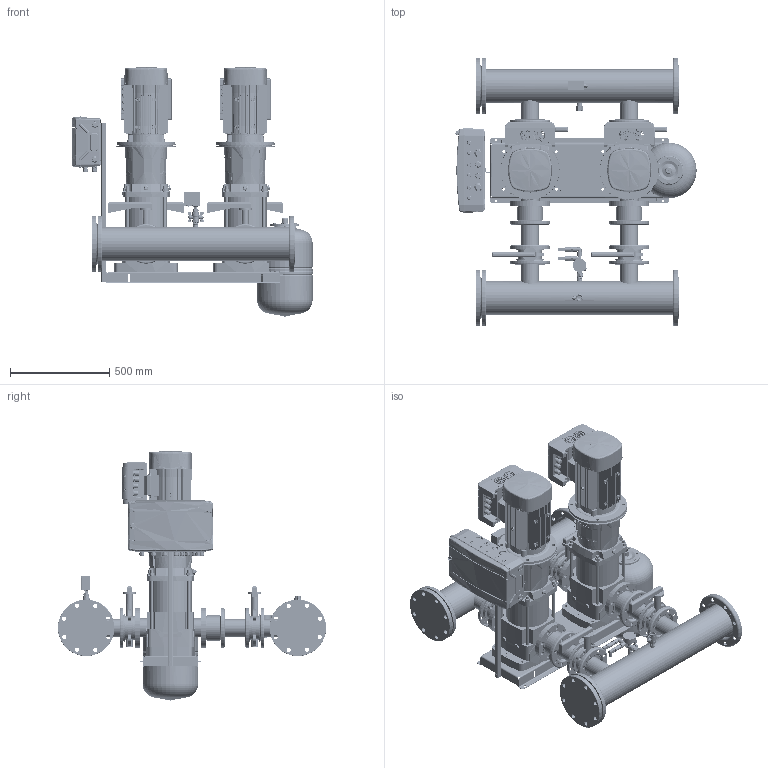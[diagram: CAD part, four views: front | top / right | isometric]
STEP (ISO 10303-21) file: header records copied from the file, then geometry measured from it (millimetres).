
FILE_DESCRIPTION(('CATIA V5 STEP Exchange','CAx-IF Rec.Pracs.--- Model Styling and Organization---1.4--- 2014-01-23','CAx-IF Rec.Pracs.---3D Tessellated Data Validation Properties---0.5---2014-09-14'),'2;1');
FILE_NAME('C:\Users\78432\YandexDisk\Drawings and 3D\3D Hydro Booster\Hydro-ME 3D\Hydro Models\Hydro ME 2 CRV45-xx\Hydro ME 2 CRVE45-2-2.stp','2023-09-20T13:44:56+00:00',('none'),('none'),'CATIA Version 5-6 Release 2019 SP6','CATIA V5 STEP AP242 v1','none');
FILE_SCHEMA(('AP242_MANAGED_MODEL_BASED_3D_ENGINEERING_MIM_LF {1 0 10303 442 1 1 4}'));
Length unit declared in the file: millimetre
Products named in the file (52): Hydro ME 2 CRVE45-2-2; 92051010; CRV45-2-2 set; CRV 45-2-2_DIN_5.5kW; Base; Flange.1; Flange.2; Sleeve; Pumphead; Staybolt.1; Staybolt.2; Staybolt.3; Staybolt.4; AirVent; Motor; Plug; Non-Return Valve DN80 cpl.; 92802787; 00id2588; Buttefly Valve DN80 cpl.; 92802780; 96619630#01_GMR; 91070073; 91071907; 99110037; SAJ PDH30 4-7,5kW; 97941448; 405801; 91041071; 91070076; 99110040; 97941485; 00ID6961; Holder and CP 18mod; 92878909; Control ME (18mod); 2 sensors + manometer cpl.; manometr 16 bar; RPD-I-G1_2; 9021-01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
Assembly tree (69 placements, depth 4):
  Hydro ME 2 CRVE45-2-2
    92051010
    CRV45-2-2 set  x2
      CRV 45-2-2_DIN_5.5kW
        Base
        Flange.1
        Flange.2
        Sleeve
        Pumphead
        Staybolt.1
        Staybolt.2
        Staybolt.3
        Staybolt.4
        AirVent
        Motor
        Plug
      Non-Return Valve DN80 cpl.
        92802787
        00id2588  x2
      Buttefly Valve DN80 cpl.
        92802780
        00id2588  x2
      96619630#01_GMR
        91070073  x2
        91071907
        99110037  x2
      SAJ PDH30 4-7,5kW
    97941448  x2
      405801
      91041071
      91070073
      91070076
      99110037
      99110040
      97941485
    00ID6961  x2
    Holder and CP 18mod
      92878909
      Control ME (18mod)
    2 sensors + manometer cpl.
      manometr 16 bar
      RPD-I-G1_2  x2
      9021-01
      2070 1/2-1/2
      _2020 1/2-1/2
      98594078
    Tank 24L cpl.
      DN20_FF_BF_47.300.20
      9021-03
    Relay cpl.
      Relay RD-2R
      DN20_FF_BF_47.300.20
      2530 3/4-1/2
      _2530 1/2-1/4
    91078139
  WAV-24(D140 1'')
Bounding box: 1216.82 x 1352.3 x 1260.07 mm (x, y, z)
Volume: 134064929.7 mm3; surface area: 13049758.4 mm2
Topology: 220 solids, 240 shells, 22285 faces, 64602 edges, 43570 vertices
Faces by surface type: plane 9632, cylinder 5535, bspline 5084, cone 1479, torus 454, sphere 101
Entity records: 622419 total; most frequent: CARTESIAN_POINT 313367, ORIENTED_EDGE 78979, EDGE_CURVE 40030, DIRECTION 36846, VERTEX_POINT 26848, VECTOR 17456, LINE 17456, EDGE_LOOP 15709
